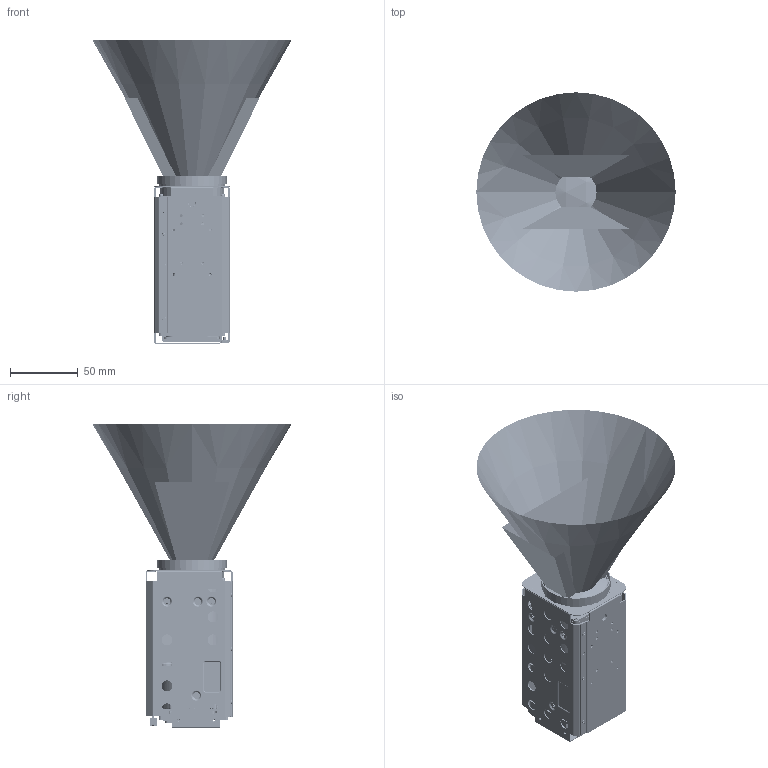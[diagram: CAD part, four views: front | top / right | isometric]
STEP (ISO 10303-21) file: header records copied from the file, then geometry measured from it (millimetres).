
FILE_DESCRIPTION((''),'2;1');
FILE_NAME('36LGHD_ASM_ASM','2023-10-13T',('USER'),(''),'PRO/ENGINEER BY PARAMETRIC TECHNOLOGY CORPORATION, 2012300','PRO/ENGINEER BY PARAMETRIC TECHNOLOGY CORPORATION, 2012300','');
FILE_SCHEMA(('AUTOMOTIVE_DESIGN_CC2 { 1 2 10303 214 -1 1 5 2 }'));
Length unit declared in the file: millimetre
Products named in the file (49): _X2_5B9E4F53_X0_1_1; _X2_5B9E4F53_X0_2_1; _X2_5B9E4F53_X0_3_1; _X2_5B9E4F53_X0_4_1; _X2_5B9E4F53_X0_5_1; _X2_5B9E4F53_X0_6_1; _X2_5B9E4F53_X0_7-12324_1; _X2_5B9E4F53_X0_7-12325_1; _X2_5B9E4F53_X0_8_1; _X2_5B9E4F53_X0_9_1; _X2_5B9E4F53_X0_10_1; _X2_5B9E4F53_X0_11_1; _X2_5B9E4F53_X0_12_1; _X2_5B9E4F53_X0_13_1; _X2_5B9E4F53_X0_14_1; _X2_5B9E4F53_X0_15_1; _X2_5B9E4F53_X0_16_1; _X2_5B9E4F53_X0_17_1; _X2_5B9E4F53_X0_18_1; _X2_5B9E4F53_X0_19_1; _X2_5B9E4F53_X0_20_1; _X2_5B9E4F53_X0_21_1; _X2_5B9E4F53_X0_22_1; _X2_5B9E4F53_X0_23_1; _X2_5B9E4F53_X0_24_1; _X2_5B9E4F53_X0_25_1; _X2_5B9E4F53_X0_26_1; _X2_5B9E4F53_X0_27_1; _X2_5B9E4F53_X0_28_1; 1592M1-1012_1; 149200-1000_SHRINKWRAP_1_ASM_1__ASM; 35X_IPT_ASM_1_ASM_ASM; PCB_SPACER___2; MAIN_PCB__7; PRT0003__7; CMOS_IMX264_265_392LQJ-C_2; SENSOR_PCB_ASSY__ASM_8_ASM_ASM; SENSOR_SPACER_SHEET_12; SHEET___1; 323037090_CHASSIS_TOP_1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
Assembly tree (60 placements, depth 6):
  36LGHD_ASM_ASM
    ASM0001_ASM
      00_MDOULE_ASSY_23X_35X_ASM_28_A_ASM
        35X_IPT_ASM_1_ASM_ASM
          149200-1000_SHRINKWRAP_1_ASM_1__ASM
            _X2_5B9E4F53_X0_1_1
            _X2_5B9E4F53_X0_2_1
            _X2_5B9E4F53_X0_3_1
            _X2_5B9E4F53_X0_4_1
            _X2_5B9E4F53_X0_5_1
            _X2_5B9E4F53_X0_6_1
            _X2_5B9E4F53_X0_7-12324_1
            _X2_5B9E4F53_X0_7-12325_1
            _X2_5B9E4F53_X0_8_1
            _X2_5B9E4F53_X0_9_1
            _X2_5B9E4F53_X0_10_1
            _X2_5B9E4F53_X0_11_1
            _X2_5B9E4F53_X0_12_1
            _X2_5B9E4F53_X0_13_1
            _X2_5B9E4F53_X0_14_1
            _X2_5B9E4F53_X0_15_1
            _X2_5B9E4F53_X0_16_1
            _X2_5B9E4F53_X0_17_1
            _X2_5B9E4F53_X0_18_1
            _X2_5B9E4F53_X0_19_1
            _X2_5B9E4F53_X0_20_1
            _X2_5B9E4F53_X0_21_1
            _X2_5B9E4F53_X0_22_1
            _X2_5B9E4F53_X0_23_1
            _X2_5B9E4F53_X0_24_1
            _X2_5B9E4F53_X0_25_1
            _X2_5B9E4F53_X0_26_1
            _X2_5B9E4F53_X0_27_1
            _X2_5B9E4F53_X0_28_1
            1592M1-1012_1
        PCB_SPACER___2
        MAIN_PCB__7
        SENSOR_PCB_ASSY__ASM_8_ASM_ASM
          PRT0003__7
          CMOS_IMX264_265_392LQJ-C_2
        SENSOR_SPACER_SHEET_12
        SHEET___1
        CHASSIS_ASM_3_ASM_ASM
          323037090_CHASSIS_TOP_1
          TS_LH_M2X4_TYPE2_1  x6
          MS_LH_M2X3_1  x3
          MS_LH_M2X4_1  x6
          323037095_CHASSIS_BOTTOM_1
        36LGHD_VIEW_ANGLE
Bounding box: 147.49 x 147.49 x 224.83 mm (x, y, z)
Surface area: 225182.5 mm2 (no closed solid volume)
Topology: 0 solids, 4336 shells, 4342 faces, 23130 edges, 23122 vertices
Faces by surface type: plane 2171, cylinder 1479, torus 331, cone 253, extrusion 92, bspline 10, sphere 6
Entity records: 244936 total; most frequent: CARTESIAN_POINT 83011, DIRECTION 31211, ORIENTED_EDGE 21623, EDGE_CURVE 21616, VERTEX_POINT 21610, VECTOR 12463, LINE 12371, AXIS2_PLACEMENT_3D 9374
